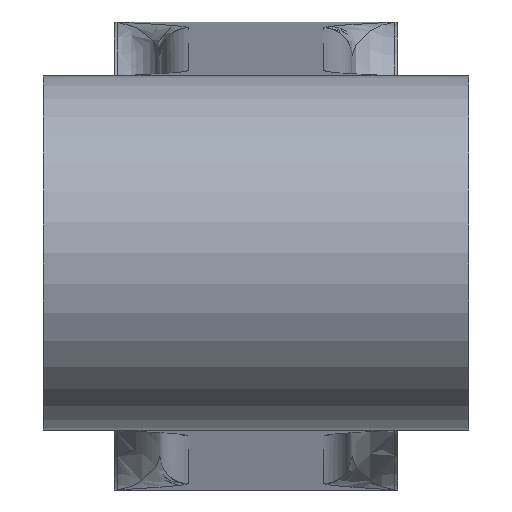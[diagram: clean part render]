
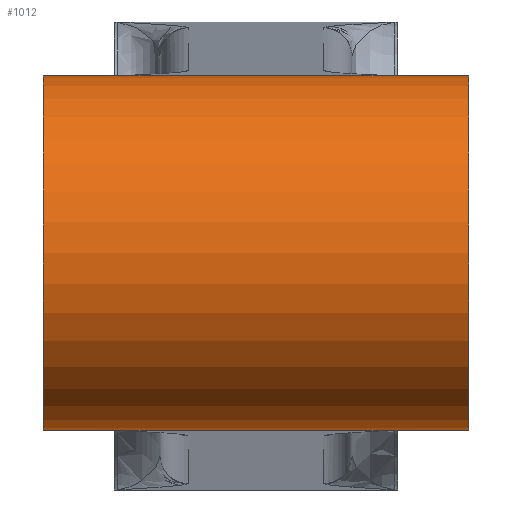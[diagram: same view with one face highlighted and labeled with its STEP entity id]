
A CAD part, top view. The second image highlights one B-rep face of the part: STEP entity #1012.
In plain terms, the highlighted cylindrical face has radius 2.5 mm (diameter 5 mm), a partial arc.
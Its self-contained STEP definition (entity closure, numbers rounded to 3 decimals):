
#564=AXIS2_PLACEMENT_3D('Cylinder Axis2P3D',#561,#562,#563) ;
#733=AXIS2_PLACEMENT_3D('Circle Axis2P3D',#731,#732,$) ;
#769=AXIS2_PLACEMENT_3D('Circle Axis2P3D',#767,#768,$) ;
#904=AXIS2_PLACEMENT_3D('Circle Axis2P3D',#902,#903,$) ;
#923=AXIS2_PLACEMENT_3D('Circle Axis2P3D',#921,#922,$) ;
#951=AXIS2_PLACEMENT_3D('Circle Axis2P3D',#949,#950,$) ;
#970=AXIS2_PLACEMENT_3D('Circle Axis2P3D',#968,#969,$) ;
#520=CARTESIAN_POINT('Vertex',(-0.6,2.5,24.)) ;
#561=CARTESIAN_POINT('Axis2P3D Location',(2.7,0.,24.)) ;
#570=CARTESIAN_POINT('Vertex',(-0.6,-2.5,24.)) ;
#573=CARTESIAN_POINT('Line Origine',(1.35,-2.5,24.)) ;
#577=CARTESIAN_POINT('Vertex',(-1.65,-2.5,24.)) ;
#584=CARTESIAN_POINT('Vertex',(-1.65,2.5,24.)) ;
#587=CARTESIAN_POINT('Line Origine',(1.35,2.5,24.)) ;
#726=CARTESIAN_POINT('Vertex',(4.35,-2.5,24.)) ;
#728=CARTESIAN_POINT('Vertex',(4.35,2.5,24.)) ;
#731=CARTESIAN_POINT('Axis2P3D Location',(4.35,0.,24.)) ;
#767=CARTESIAN_POINT('Axis2P3D Location',(-1.65,0.,24.)) ;
#899=CARTESIAN_POINT('Vertex',(-0.6,2.499,24.083)) ;
#902=CARTESIAN_POINT('Axis2P3D Location',(-0.6,0.,24.)) ;
#921=CARTESIAN_POINT('Axis2P3D Location',(-0.6,0.,24.)) ;
#925=CARTESIAN_POINT('Vertex',(-0.6,-2.499,24.083)) ;
#928=CARTESIAN_POINT('Line Origine',(1.35,-2.499,24.083)) ;
#932=CARTESIAN_POINT('Vertex',(0.,-2.499,24.083)) ;
#935=CARTESIAN_POINT('Line Origine',(1.35,-2.499,24.083)) ;
#939=CARTESIAN_POINT('Vertex',(2.7,-2.499,24.083)) ;
#942=CARTESIAN_POINT('Line Origine',(1.35,-2.499,24.083)) ;
#946=CARTESIAN_POINT('Vertex',(3.3,-2.499,24.083)) ;
#949=CARTESIAN_POINT('Axis2P3D Location',(3.3,0.,24.)) ;
#953=CARTESIAN_POINT('Vertex',(3.3,-2.5,24.)) ;
#956=CARTESIAN_POINT('Line Origine',(1.35,-2.5,24.)) ;
#961=CARTESIAN_POINT('Line Origine',(1.35,2.5,24.)) ;
#965=CARTESIAN_POINT('Vertex',(3.3,2.5,24.)) ;
#968=CARTESIAN_POINT('Axis2P3D Location',(3.3,0.,24.)) ;
#972=CARTESIAN_POINT('Vertex',(3.3,2.499,24.083)) ;
#975=CARTESIAN_POINT('Line Origine',(1.35,2.499,24.083)) ;
#979=CARTESIAN_POINT('Vertex',(2.7,2.499,24.083)) ;
#982=CARTESIAN_POINT('Line Origine',(1.35,2.499,24.083)) ;
#986=CARTESIAN_POINT('Vertex',(0.,2.499,24.083)) ;
#989=CARTESIAN_POINT('Line Origine',(1.35,2.499,24.083)) ;
#562=DIRECTION('Axis2P3D Direction',(1.,0.,0.)) ;
#563=DIRECTION('Axis2P3D XDirection',(0.,-1.,0.)) ;
#574=DIRECTION('Vector Direction',(1.,0.,0.)) ;
#588=DIRECTION('Vector Direction',(1.,0.,0.)) ;
#732=DIRECTION('Axis2P3D Direction',(1.,0.,0.)) ;
#768=DIRECTION('Axis2P3D Direction',(1.,0.,0.)) ;
#903=DIRECTION('Axis2P3D Direction',(-1.,0.,0.)) ;
#922=DIRECTION('Axis2P3D Direction',(1.,0.,0.)) ;
#929=DIRECTION('Vector Direction',(1.,0.,0.)) ;
#936=DIRECTION('Vector Direction',(1.,0.,0.)) ;
#943=DIRECTION('Vector Direction',(1.,0.,0.)) ;
#950=DIRECTION('Axis2P3D Direction',(1.,0.,0.)) ;
#957=DIRECTION('Vector Direction',(1.,0.,0.)) ;
#962=DIRECTION('Vector Direction',(1.,0.,0.)) ;
#969=DIRECTION('Axis2P3D Direction',(1.,0.,0.)) ;
#976=DIRECTION('Vector Direction',(1.,0.,0.)) ;
#983=DIRECTION('Vector Direction',(1.,0.,0.)) ;
#990=DIRECTION('Vector Direction',(1.,0.,0.)) ;
#575=VECTOR('Line Direction',#574,1.) ;
#589=VECTOR('Line Direction',#588,1.) ;
#930=VECTOR('Line Direction',#929,1.) ;
#937=VECTOR('Line Direction',#936,1.) ;
#944=VECTOR('Line Direction',#943,1.) ;
#958=VECTOR('Line Direction',#957,1.) ;
#963=VECTOR('Line Direction',#962,1.) ;
#977=VECTOR('Line Direction',#976,1.) ;
#984=VECTOR('Line Direction',#983,1.) ;
#991=VECTOR('Line Direction',#990,1.) ;
#995=ORIENTED_EDGE('',*,*,#591,.F.) ;
#996=ORIENTED_EDGE('',*,*,#771,.T.) ;
#997=ORIENTED_EDGE('',*,*,#579,.T.) ;
#998=ORIENTED_EDGE('',*,*,#927,.T.) ;
#999=ORIENTED_EDGE('',*,*,#934,.F.) ;
#1000=ORIENTED_EDGE('',*,*,#941,.T.) ;
#1001=ORIENTED_EDGE('',*,*,#948,.T.) ;
#1002=ORIENTED_EDGE('',*,*,#955,.T.) ;
#1003=ORIENTED_EDGE('',*,*,#960,.T.) ;
#1004=ORIENTED_EDGE('',*,*,#735,.F.) ;
#1005=ORIENTED_EDGE('',*,*,#967,.F.) ;
#1006=ORIENTED_EDGE('',*,*,#974,.T.) ;
#1007=ORIENTED_EDGE('',*,*,#981,.F.) ;
#1008=ORIENTED_EDGE('',*,*,#988,.F.) ;
#1009=ORIENTED_EDGE('',*,*,#993,.T.) ;
#1010=ORIENTED_EDGE('',*,*,#906,.T.) ;
#1012=ADVANCED_FACE('',(#1011),#565,.T.) ;
#734=CIRCLE('generated circle',#733,2.5) ;
#770=CIRCLE('generated circle',#769,2.5) ;
#905=CIRCLE('generated circle',#904,2.5) ;
#924=CIRCLE('generated circle',#923,2.5) ;
#952=CIRCLE('generated circle',#951,2.5) ;
#971=CIRCLE('generated circle',#970,2.5) ;
#565=CYLINDRICAL_SURFACE('generated cylinder',#564,2.5) ;
#579=EDGE_CURVE('',#578,#571,#576,.T.) ;
#591=EDGE_CURVE('',#585,#521,#590,.T.) ;
#735=EDGE_CURVE('',#729,#727,#734,.T.) ;
#771=EDGE_CURVE('',#585,#578,#770,.T.) ;
#906=EDGE_CURVE('',#900,#521,#905,.T.) ;
#927=EDGE_CURVE('',#571,#926,#924,.F.) ;
#934=EDGE_CURVE('',#933,#926,#931,.F.) ;
#941=EDGE_CURVE('',#933,#940,#938,.T.) ;
#948=EDGE_CURVE('',#940,#947,#945,.T.) ;
#955=EDGE_CURVE('',#947,#954,#952,.T.) ;
#960=EDGE_CURVE('',#954,#727,#959,.T.) ;
#967=EDGE_CURVE('',#966,#729,#964,.T.) ;
#974=EDGE_CURVE('',#966,#973,#971,.T.) ;
#981=EDGE_CURVE('',#980,#973,#978,.T.) ;
#988=EDGE_CURVE('',#987,#980,#985,.T.) ;
#993=EDGE_CURVE('',#987,#900,#992,.F.) ;
#994=EDGE_LOOP('',(#995,#996,#997,#998,#999,#1000,#1001,#1002,#1003,#1004,#1005,#1006,#1007,#1008,#1009,#1010)) ;
#1011=FACE_OUTER_BOUND('',#994,.T.) ;
#576=LINE('Line',#573,#575) ;
#590=LINE('Line',#587,#589) ;
#931=LINE('Line',#928,#930) ;
#938=LINE('Line',#935,#937) ;
#945=LINE('Line',#942,#944) ;
#959=LINE('Line',#956,#958) ;
#964=LINE('Line',#961,#963) ;
#978=LINE('Line',#975,#977) ;
#985=LINE('Line',#982,#984) ;
#992=LINE('Line',#989,#991) ;
#521=VERTEX_POINT('',#520) ;
#571=VERTEX_POINT('',#570) ;
#578=VERTEX_POINT('',#577) ;
#585=VERTEX_POINT('',#584) ;
#727=VERTEX_POINT('',#726) ;
#729=VERTEX_POINT('',#728) ;
#900=VERTEX_POINT('',#899) ;
#926=VERTEX_POINT('',#925) ;
#933=VERTEX_POINT('',#932) ;
#940=VERTEX_POINT('',#939) ;
#947=VERTEX_POINT('',#946) ;
#954=VERTEX_POINT('',#953) ;
#966=VERTEX_POINT('',#965) ;
#973=VERTEX_POINT('',#972) ;
#980=VERTEX_POINT('',#979) ;
#987=VERTEX_POINT('',#986) ;
